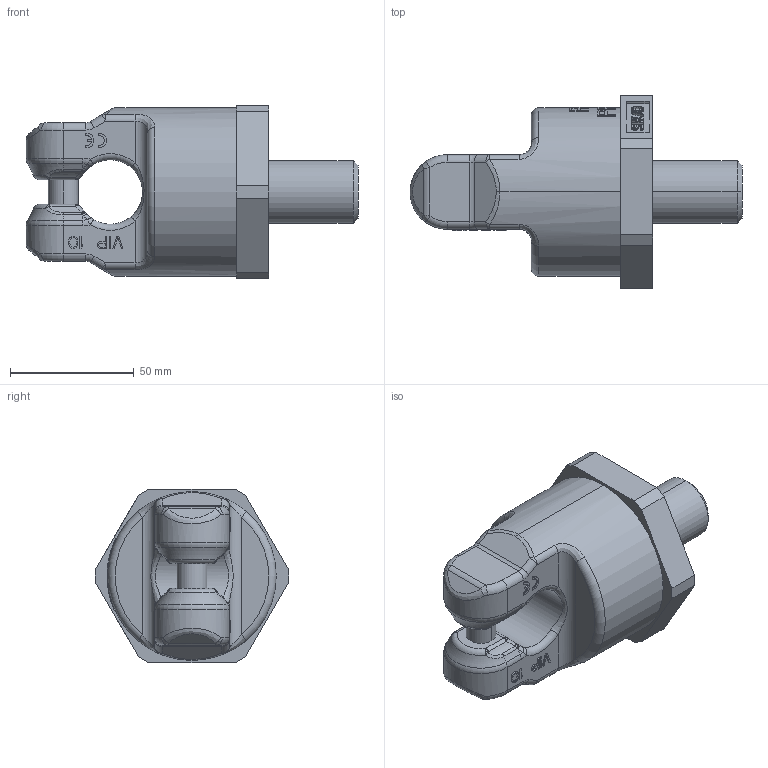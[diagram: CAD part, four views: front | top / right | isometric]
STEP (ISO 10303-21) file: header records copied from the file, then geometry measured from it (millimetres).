
FILE_DESCRIPTION((''),'2;1');
FILE_NAME('001-M35223-P-10_ASM','2019-09-12T',('anja.joas'),(''),'PRO/ENGINEER BY PARAMETRIC TECHNOLOGY CORPORATION, 2011490','PRO/ENGINEER BY PARAMETRIC TECHNOLOGY CORPORATION, 2011490','');
FILE_SCHEMA(('CONFIG_CONTROL_DESIGN'));
Length unit declared in the file: millimetre
Products named in the file (3): 001-M31341-P-20_AF0; 001-M35223-P-20; 001-M35223-P-10_ASM
Assembly tree (2 placements, depth 2):
  001-M35223-P-10_ASM
    001-M31341-P-20_AF0
    001-M35223-P-20
Bounding box: 134 x 78 x 70 mm (x, y, z)
Volume: 263223.3 mm3; surface area: 37470.6 mm2
Topology: 2 solids, 2 shells, 604 faces, 1595 edges, 1025 vertices
Faces by surface type: plane 443, cylinder 67, bspline 64, torus 20, sphere 8, cone 2
Entity records: 20890 total; most frequent: CARTESIAN_POINT 6518, ORIENTED_EDGE 3190, DIRECTION 2630, EDGE_CURVE 1595, VECTOR 1052, LINE 1052, VERTEX_POINT 1025, AXIS2_PLACEMENT_3D 789
